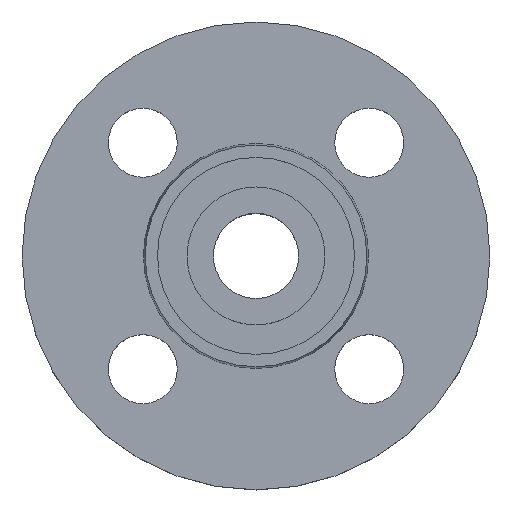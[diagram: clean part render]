
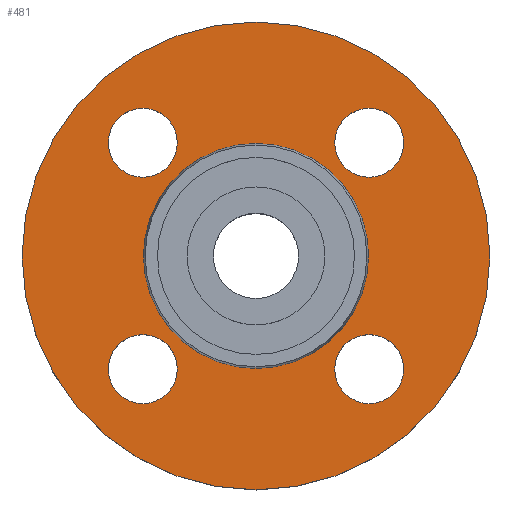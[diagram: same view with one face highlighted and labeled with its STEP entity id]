
A CAD part, top view. The second image highlights one B-rep face of the part: STEP entity #481.
In plain terms, the highlighted planar face has unit normal (0, 0, 1).
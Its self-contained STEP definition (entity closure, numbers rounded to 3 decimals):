
#1 = CARTESIAN_POINT ( 'NONE',  ( -15.981, 22.981, -2. ) ) ;
#45 = CARTESIAN_POINT ( 'NONE',  ( -29.981, -22.981, -2. ) ) ;
#53 = CIRCLE ( 'NONE', #54, 7. ) ;
#54 = AXIS2_PLACEMENT_3D ( 'NONE', #432, #420, #422 ) ;
#57 = DIRECTION ( 'NONE',  ( 1., 0., 0. ) ) ;
#62 = CARTESIAN_POINT ( 'NONE',  ( -22.981, -22.981, -2. ) ) ;
#64 = DIRECTION ( 'NONE',  ( 0., 0., -1. ) ) ;
#70 = AXIS2_PLACEMENT_3D ( 'NONE', #412, #702, #429 ) ;
#72 = AXIS2_PLACEMENT_3D ( 'NONE', #458, #707, #352 ) ;
#79 = DIRECTION ( 'NONE',  ( -1., 0., 0. ) ) ;
#80 = DIRECTION ( 'NONE',  ( 0., 0., -1. ) ) ;
#81 = CARTESIAN_POINT ( 'NONE',  ( 0., 0., -2. ) ) ;
#96 = CARTESIAN_POINT ( 'NONE',  ( -15.981, -22.981, -2. ) ) ;
#109 = CIRCLE ( 'NONE', #118, 7. ) ;
#118 = AXIS2_PLACEMENT_3D ( 'NONE', #341, #340, #339 ) ;
#145 = CIRCLE ( 'NONE', #147, 47.5 ) ;
#147 = AXIS2_PLACEMENT_3D ( 'NONE', #300, #298, #296 ) ;
#148 = CARTESIAN_POINT ( 'NONE',  ( 47.5, 0., -2. ) ) ;
#157 = CIRCLE ( 'NONE', #163, 7. ) ;
#163 = AXIS2_PLACEMENT_3D ( 'NONE', #285, #280, #279 ) ;
#164 = CIRCLE ( 'NONE', #166, 22.853 ) ;
#166 = AXIS2_PLACEMENT_3D ( 'NONE', #267, #265, #264 ) ;
#183 = CIRCLE ( 'NONE', #184, 47.5 ) ;
#184 = AXIS2_PLACEMENT_3D ( 'NONE', #81, #80, #79 ) ;
#206 = CIRCLE ( 'NONE', #212, 7. ) ;
#210 = CARTESIAN_POINT ( 'NONE',  ( -22.981, 22.981, -2. ) ) ;
#212 = AXIS2_PLACEMENT_3D ( 'NONE', #62, #64, #57 ) ;
#215 = DIRECTION ( 'NONE',  ( 0., 0., -1. ) ) ;
#218 = DIRECTION ( 'NONE',  ( 1., 0., 0. ) ) ;
#221 = DIRECTION ( 'NONE',  ( 0., 0., -1. ) ) ;
#223 = DIRECTION ( 'NONE',  ( 1., 0., 0. ) ) ;
#229 = AXIS2_PLACEMENT_3D ( 'NONE', #667, #669, #670 ) ;
#230 = CARTESIAN_POINT ( 'NONE',  ( 22.981, -22.981, -2. ) ) ;
#246 = EDGE_CURVE ( 'NONE', #612, #787, #308, .T. ) ;
#258 = CARTESIAN_POINT ( 'NONE',  ( 22.853, 0., -2. ) ) ;
#262 = CARTESIAN_POINT ( 'NONE',  ( -29.981, 22.981, -2. ) ) ;
#264 = DIRECTION ( 'NONE',  ( -1., 0., 0. ) ) ;
#265 = DIRECTION ( 'NONE',  ( 0., 0., -1. ) ) ;
#266 = AXIS2_PLACEMENT_3D ( 'NONE', #562, #563, #568 ) ;
#267 = CARTESIAN_POINT ( 'NONE',  ( 0., 0., -2. ) ) ;
#276 = CARTESIAN_POINT ( 'NONE',  ( 15.981, -22.981, -2. ) ) ;
#279 = DIRECTION ( 'NONE',  ( 1., 0., 0. ) ) ;
#280 = DIRECTION ( 'NONE',  ( 0., 0., -1. ) ) ;
#285 = CARTESIAN_POINT ( 'NONE',  ( 22.981, -22.981, -2. ) ) ;
#296 = DIRECTION ( 'NONE',  ( -1., 0., 0. ) ) ;
#298 = DIRECTION ( 'NONE',  ( 0., 0., -1. ) ) ;
#300 = CARTESIAN_POINT ( 'NONE',  ( 0., 0., -2. ) ) ;
#304 = CARTESIAN_POINT ( 'NONE',  ( 29.981, -22.981, -2. ) ) ;
#306 = CARTESIAN_POINT ( 'NONE',  ( 29.981, 22.981, -2. ) ) ;
#308 = CIRCLE ( 'NONE', #266, 22.853 ) ;
#312 = CARTESIAN_POINT ( 'NONE',  ( 15.981, 22.981, -2. ) ) ;
#339 = DIRECTION ( 'NONE',  ( 1., 0., 0. ) ) ;
#340 = DIRECTION ( 'NONE',  ( 0., 0., -1. ) ) ;
#341 = CARTESIAN_POINT ( 'NONE',  ( -22.981, 22.981, -2. ) ) ;
#347 = EDGE_CURVE ( 'NONE', #827, #781, #361, .T. ) ;
#352 = DIRECTION ( 'NONE',  ( 1., 0., 0. ) ) ;
#361 = CIRCLE ( 'NONE', #229, 7. ) ;
#374 = AXIS2_PLACEMENT_3D ( 'NONE', #210, #215, #218 ) ;
#402 = PLANE ( 'NONE',  #72 ) ;
#403 = FACE_OUTER_BOUND ( 'NONE', #601, .T. ) ;
#412 = CARTESIAN_POINT ( 'NONE',  ( 22.981, 22.981, -2. ) ) ;
#420 = DIRECTION ( 'NONE',  ( 0., 0., -1. ) ) ;
#422 = DIRECTION ( 'NONE',  ( 1., 0., 0. ) ) ;
#429 = DIRECTION ( 'NONE',  ( 1., 0., 0. ) ) ;
#432 = CARTESIAN_POINT ( 'NONE',  ( 22.981, 22.981, -2. ) ) ;
#455 = FACE_BOUND ( 'NONE', #770, .T. ) ;
#457 = CIRCLE ( 'NONE', #70, 7. ) ;
#458 = CARTESIAN_POINT ( 'NONE',  ( 22.853, 0., -2. ) ) ;
#460 = EDGE_CURVE ( 'NONE', #542, #552, #53, .T. ) ;
#469 = EDGE_CURVE ( 'NONE', #552, #542, #457, .T. ) ;
#470 = CARTESIAN_POINT ( 'NONE',  ( -47.5, 0., -2. ) ) ;
#481 = ADVANCED_FACE ( 'NONE', ( #699, #700, #704, #701, #455, #403 ), #402, .T. ) ;
#501 = EDGE_CURVE ( 'NONE', #886, #599, #109, .T. ) ;
#513 = CIRCLE ( 'NONE', #374, 7. ) ;
#518 = AXIS2_PLACEMENT_3D ( 'NONE', #230, #221, #223 ) ;
#523 = CIRCLE ( 'NONE', #518, 7. ) ;
#542 = VERTEX_POINT ( 'NONE', #312 ) ;
#548 = EDGE_LOOP ( 'NONE', ( #791, #793 ) ) ;
#552 = VERTEX_POINT ( 'NONE', #306 ) ;
#559 = VERTEX_POINT ( 'NONE', #304 ) ;
#560 = EDGE_CURVE ( 'NONE', #792, #706, #145, .T. ) ;
#562 = CARTESIAN_POINT ( 'NONE',  ( 0., 0., -2. ) ) ;
#563 = DIRECTION ( 'NONE',  ( 0., 0., -1. ) ) ;
#568 = DIRECTION ( 'NONE',  ( -1., 0., 0. ) ) ;
#577 = EDGE_CURVE ( 'NONE', #582, #559, #157, .T. ) ;
#582 = VERTEX_POINT ( 'NONE', #276 ) ;
#587 = EDGE_LOOP ( 'NONE', ( #797, #799 ) ) ;
#596 = EDGE_CURVE ( 'NONE', #787, #612, #164, .T. ) ;
#599 = VERTEX_POINT ( 'NONE', #262 ) ;
#600 = EDGE_LOOP ( 'NONE', ( #788, #790 ) ) ;
#601 = EDGE_LOOP ( 'NONE', ( #804, #805 ) ) ;
#612 = VERTEX_POINT ( 'NONE', #258 ) ;
#618 = CARTESIAN_POINT ( 'NONE',  ( -22.853, 0., -2. ) ) ;
#648 = EDGE_CURVE ( 'NONE', #559, #582, #523, .T. ) ;
#667 = CARTESIAN_POINT ( 'NONE',  ( -22.981, -22.981, -2. ) ) ;
#668 = EDGE_CURVE ( 'NONE', #599, #886, #513, .T. ) ;
#669 = DIRECTION ( 'NONE',  ( 0., 0., -1. ) ) ;
#670 = DIRECTION ( 'NONE',  ( 1., 0., 0. ) ) ;
#699 = FACE_BOUND ( 'NONE', #600, .T. ) ;
#700 = FACE_BOUND ( 'NONE', #548, .T. ) ;
#701 = FACE_BOUND ( 'NONE', #587, .T. ) ;
#702 = DIRECTION ( 'NONE',  ( 0., 0., -1. ) ) ;
#704 = FACE_BOUND ( 'NONE', #908, .T. ) ;
#706 = VERTEX_POINT ( 'NONE', #148 ) ;
#707 = DIRECTION ( 'NONE',  ( 0., 0., 1. ) ) ;
#770 = EDGE_LOOP ( 'NONE', ( #801, #803 ) ) ;
#781 = VERTEX_POINT ( 'NONE', #96 ) ;
#787 = VERTEX_POINT ( 'NONE', #618 ) ;
#788 = ORIENTED_EDGE ( 'NONE', *, *, #648, .T. ) ;
#790 = ORIENTED_EDGE ( 'NONE', *, *, #577, .T. ) ;
#791 = ORIENTED_EDGE ( 'NONE', *, *, #814, .T. ) ;
#792 = VERTEX_POINT ( 'NONE', #470 ) ;
#793 = ORIENTED_EDGE ( 'NONE', *, *, #347, .T. ) ;
#794 = ORIENTED_EDGE ( 'NONE', *, *, #501, .T. ) ;
#795 = ORIENTED_EDGE ( 'NONE', *, *, #668, .T. ) ;
#797 = ORIENTED_EDGE ( 'NONE', *, *, #469, .T. ) ;
#798 = EDGE_CURVE ( 'NONE', #706, #792, #183, .T. ) ;
#799 = ORIENTED_EDGE ( 'NONE', *, *, #460, .T. ) ;
#801 = ORIENTED_EDGE ( 'NONE', *, *, #596, .T. ) ;
#803 = ORIENTED_EDGE ( 'NONE', *, *, #246, .T. ) ;
#804 = ORIENTED_EDGE ( 'NONE', *, *, #798, .F. ) ;
#805 = ORIENTED_EDGE ( 'NONE', *, *, #560, .F. ) ;
#814 = EDGE_CURVE ( 'NONE', #781, #827, #206, .T. ) ;
#827 = VERTEX_POINT ( 'NONE', #45 ) ;
#886 = VERTEX_POINT ( 'NONE', #1 ) ;
#908 = EDGE_LOOP ( 'NONE', ( #794, #795 ) ) ;
